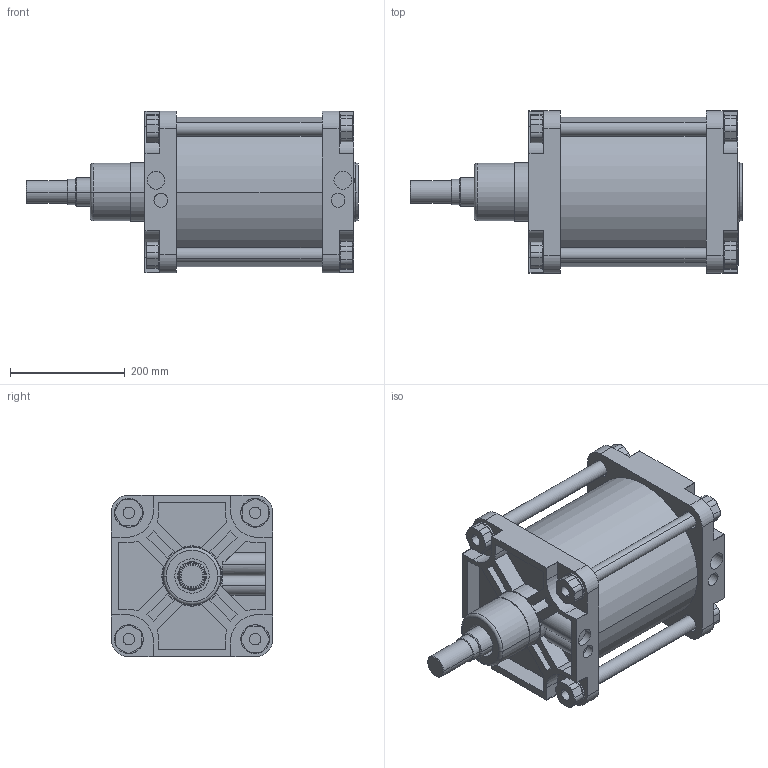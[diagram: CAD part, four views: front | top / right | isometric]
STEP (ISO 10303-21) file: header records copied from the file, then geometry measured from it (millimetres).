
FILE_DESCRIPTION(('CATIA V5 STEP Exchange'),'2;1');
FILE_NAME('D:\stp file for catalog\PNC\250\PNC 250-50-160-00.stp','2015-10-25T13:54:57+00:00',('none'),('none'),'Version 5-6 Release 2012','CATIA V5 STEP AP203','none');
FILE_SCHEMA(('CONFIG_CONTROL_DESIGN'));
Length unit declared in the file: millimetre
Products named in the file (1): PNC 250-50-160-00
Assembly tree (2 placements, depth 2):
  PNC 250-50-160-00
    #58
    #15305
Bounding box: 578 x 282 x 282 mm (x, y, z)
Volume: 10596613.1 mm3; surface area: 1338670.4 mm2
Topology: 2 solids, 2 shells, 556 faces, 1428 edges, 944 vertices
Faces by surface type: plane 316, cylinder 196, cone 42, torus 2
Entity records: 15751 total; most frequent: CARTESIAN_POINT 3340, ORIENTED_EDGE 2856, DIRECTION 1929, EDGE_CURVE 1428, VERTEX_POINT 944, VECTOR 904, LINE 904, AXIS2_PLACEMENT_3D 718
